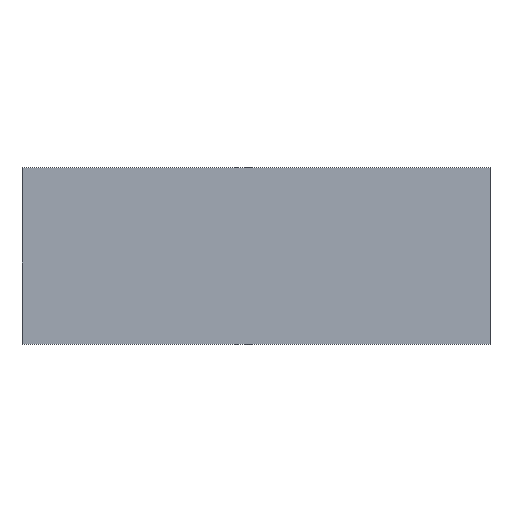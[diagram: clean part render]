
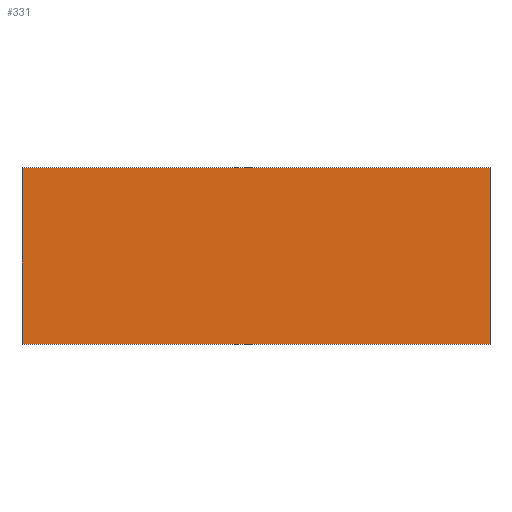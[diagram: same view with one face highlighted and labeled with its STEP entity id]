
A CAD part, top view. The second image highlights one B-rep face of the part: STEP entity #331.
In plain terms, the highlighted planar face has unit normal (0, 0, 1).
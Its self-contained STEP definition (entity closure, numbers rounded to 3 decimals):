
#22 = VERTEX_POINT('',#23);
#23 = CARTESIAN_POINT('',(36.,95.5,70.));
#32 = PLANE('',#33);
#33 = AXIS2_PLACEMENT_3D('',#34,#35,#36);
#34 = CARTESIAN_POINT('',(36.,95.5,70.));
#35 = DIRECTION('',(0.,-1.,0.));
#36 = DIRECTION('',(1.,0.,0.));
#44 = PLANE('',#45);
#45 = AXIS2_PLACEMENT_3D('',#46,#47,#48);
#46 = CARTESIAN_POINT('',(36.,75.5,70.));
#47 = DIRECTION('',(1.,0.,0.));
#48 = DIRECTION('',(0.,1.,0.));
#85 = VERTEX_POINT('',#86);
#86 = CARTESIAN_POINT('',(89.,95.5,70.));
#100 = PLANE('',#101);
#101 = AXIS2_PLACEMENT_3D('',#102,#103,#104);
#102 = CARTESIAN_POINT('',(89.,95.5,70.));
#103 = DIRECTION('',(-1.,0.,0.));
#104 = DIRECTION('',(0.,-1.,0.));
#112 = EDGE_CURVE('',#22,#85,#113,.T.);
#113 = SURFACE_CURVE('',#114,(#118,#125),.PCURVE_S1.);
#114 = LINE('',#115,#116);
#115 = CARTESIAN_POINT('',(36.,95.5,70.));
#116 = VECTOR('',#117,1.);
#117 = DIRECTION('',(1.,0.,0.));
#118 = PCURVE('',#32,#119);
#119 = DEFINITIONAL_REPRESENTATION('',(#120),#124);
#120 = LINE('',#121,#122);
#121 = CARTESIAN_POINT('',(0.,0.));
#122 = VECTOR('',#123,1.);
#123 = DIRECTION('',(1.,0.));
#124 = ( GEOMETRIC_REPRESENTATION_CONTEXT(2) 
PARAMETRIC_REPRESENTATION_CONTEXT() REPRESENTATION_CONTEXT('2D SPACE',''
  ) );
#125 = PCURVE('',#126,#131);
#126 = PLANE('',#127);
#127 = AXIS2_PLACEMENT_3D('',#128,#129,#130);
#128 = CARTESIAN_POINT('',(36.,95.5,70.));
#129 = DIRECTION('',(0.,0.,1.));
#130 = DIRECTION('',(1.,0.,0.));
#131 = DEFINITIONAL_REPRESENTATION('',(#132),#136);
#132 = LINE('',#133,#134);
#133 = CARTESIAN_POINT('',(0.,0.));
#134 = VECTOR('',#135,1.);
#135 = DIRECTION('',(1.,0.));
#136 = ( GEOMETRIC_REPRESENTATION_CONTEXT(2) 
PARAMETRIC_REPRESENTATION_CONTEXT() REPRESENTATION_CONTEXT('2D SPACE',''
  ) );
#166 = VERTEX_POINT('',#167);
#167 = CARTESIAN_POINT('',(89.,75.5,70.));
#181 = PLANE('',#182);
#182 = AXIS2_PLACEMENT_3D('',#183,#184,#185);
#183 = CARTESIAN_POINT('',(89.,75.5,70.));
#184 = DIRECTION('',(0.,1.,0.));
#185 = DIRECTION('',(-1.,0.,0.));
#193 = EDGE_CURVE('',#85,#166,#194,.T.);
#194 = SURFACE_CURVE('',#195,(#199,#206),.PCURVE_S1.);
#195 = LINE('',#196,#197);
#196 = CARTESIAN_POINT('',(89.,95.5,70.));
#197 = VECTOR('',#198,1.);
#198 = DIRECTION('',(0.,-1.,0.));
#199 = PCURVE('',#100,#200);
#200 = DEFINITIONAL_REPRESENTATION('',(#201),#205);
#201 = LINE('',#202,#203);
#202 = CARTESIAN_POINT('',(0.,0.));
#203 = VECTOR('',#204,1.);
#204 = DIRECTION('',(1.,0.));
#205 = ( GEOMETRIC_REPRESENTATION_CONTEXT(2) 
PARAMETRIC_REPRESENTATION_CONTEXT() REPRESENTATION_CONTEXT('2D SPACE',''
  ) );
#206 = PCURVE('',#126,#207);
#207 = DEFINITIONAL_REPRESENTATION('',(#208),#212);
#208 = LINE('',#209,#210);
#209 = CARTESIAN_POINT('',(53.,0.));
#210 = VECTOR('',#211,1.);
#211 = DIRECTION('',(0.,-1.));
#212 = ( GEOMETRIC_REPRESENTATION_CONTEXT(2) 
PARAMETRIC_REPRESENTATION_CONTEXT() REPRESENTATION_CONTEXT('2D SPACE',''
  ) );
#242 = VERTEX_POINT('',#243);
#243 = CARTESIAN_POINT('',(36.,75.5,70.));
#264 = EDGE_CURVE('',#166,#242,#265,.T.);
#265 = SURFACE_CURVE('',#266,(#270,#277),.PCURVE_S1.);
#266 = LINE('',#267,#268);
#267 = CARTESIAN_POINT('',(89.,75.5,70.));
#268 = VECTOR('',#269,1.);
#269 = DIRECTION('',(-1.,0.,0.));
#270 = PCURVE('',#181,#271);
#271 = DEFINITIONAL_REPRESENTATION('',(#272),#276);
#272 = LINE('',#273,#274);
#273 = CARTESIAN_POINT('',(0.,0.));
#274 = VECTOR('',#275,1.);
#275 = DIRECTION('',(1.,0.));
#276 = ( GEOMETRIC_REPRESENTATION_CONTEXT(2) 
PARAMETRIC_REPRESENTATION_CONTEXT() REPRESENTATION_CONTEXT('2D SPACE',''
  ) );
#277 = PCURVE('',#126,#278);
#278 = DEFINITIONAL_REPRESENTATION('',(#279),#283);
#279 = LINE('',#280,#281);
#280 = CARTESIAN_POINT('',(53.,-20.));
#281 = VECTOR('',#282,1.);
#282 = DIRECTION('',(-1.,0.));
#283 = ( GEOMETRIC_REPRESENTATION_CONTEXT(2) 
PARAMETRIC_REPRESENTATION_CONTEXT() REPRESENTATION_CONTEXT('2D SPACE',''
  ) );
#311 = EDGE_CURVE('',#242,#22,#312,.T.);
#312 = SURFACE_CURVE('',#313,(#317,#324),.PCURVE_S1.);
#313 = LINE('',#314,#315);
#314 = CARTESIAN_POINT('',(36.,75.5,70.));
#315 = VECTOR('',#316,1.);
#316 = DIRECTION('',(0.,1.,0.));
#317 = PCURVE('',#44,#318);
#318 = DEFINITIONAL_REPRESENTATION('',(#319),#323);
#319 = LINE('',#320,#321);
#320 = CARTESIAN_POINT('',(0.,0.));
#321 = VECTOR('',#322,1.);
#322 = DIRECTION('',(1.,0.));
#323 = ( GEOMETRIC_REPRESENTATION_CONTEXT(2) 
PARAMETRIC_REPRESENTATION_CONTEXT() REPRESENTATION_CONTEXT('2D SPACE',''
  ) );
#324 = PCURVE('',#126,#325);
#325 = DEFINITIONAL_REPRESENTATION('',(#326),#330);
#326 = LINE('',#327,#328);
#327 = CARTESIAN_POINT('',(0.,-20.));
#328 = VECTOR('',#329,1.);
#329 = DIRECTION('',(0.,1.));
#330 = ( GEOMETRIC_REPRESENTATION_CONTEXT(2) 
PARAMETRIC_REPRESENTATION_CONTEXT() REPRESENTATION_CONTEXT('2D SPACE',''
  ) );
#331 = ADVANCED_FACE('',(#332),#126,.T.);
#332 = FACE_BOUND('',#333,.F.);
#333 = EDGE_LOOP('',(#334,#335,#336,#337));
#334 = ORIENTED_EDGE('',*,*,#112,.T.);
#335 = ORIENTED_EDGE('',*,*,#193,.T.);
#336 = ORIENTED_EDGE('',*,*,#264,.T.);
#337 = ORIENTED_EDGE('',*,*,#311,.T.);
